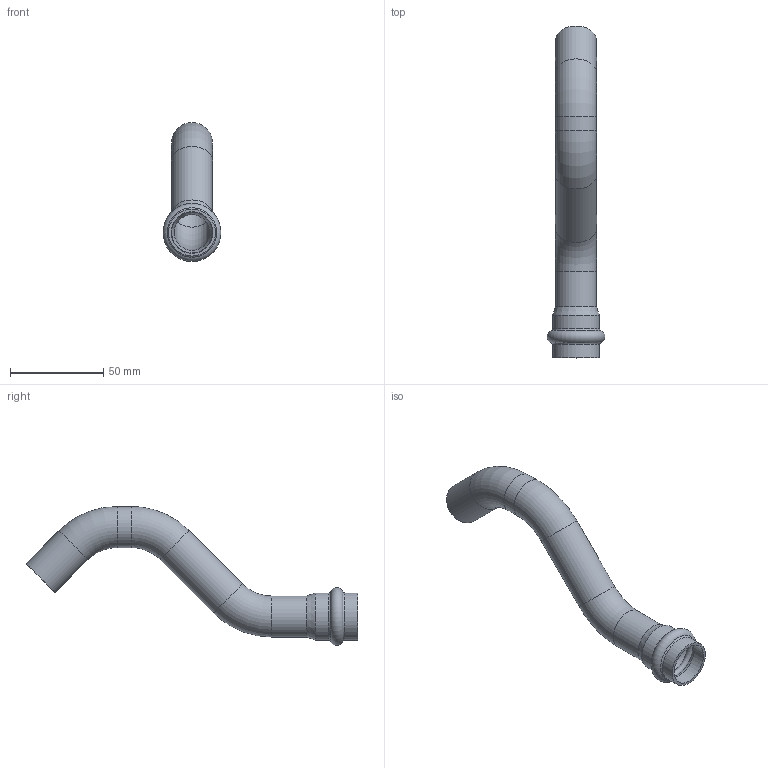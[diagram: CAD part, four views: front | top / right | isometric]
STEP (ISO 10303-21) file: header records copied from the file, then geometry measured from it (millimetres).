
FILE_DESCRIPTION(('STEP AP203'), '1');
FILE_NAME('覆.302661.003.000 捘 - VTi.970.I.002222', '', ('UNSPECIFIED'), ('UNSPECIFIED'), 'C3D Converter', 'C3D Toolkit', '');
FILE_SCHEMA(('CONFIG_CONTROL_DESIGN'));
Length unit declared in the file: millimetre
Products named in the file (1): ВР.302661.003.000 СБ
Bounding box: 31.08 x 178 x 74.54 mm (x, y, z)
Volume: 19949.2 mm3; surface area: 26902.9 mm2
Topology: 1 solids, 1 shells, 29 faces, 60 edges, 33 vertices
Faces by surface type: torus 13, cylinder 12, plane 2, cone 2
Full cylindrical faces by diameter (mm): 19.1 x4, 22 x4, 22.3 x2, 25.2 x2
Entity records: 668 total; most frequent: DIRECTION 126, CARTESIAN_POINT 96, ORIENTED_EDGE 66, AXIS2_PLACEMENT_3D 63, EDGE_LOOP 58, FACE_OUTER_BOUND 46, EDGE_CURVE 33, VERTEX_POINT 33
